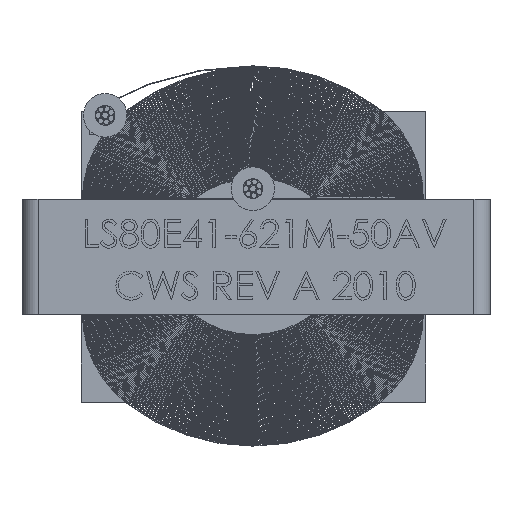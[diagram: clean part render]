
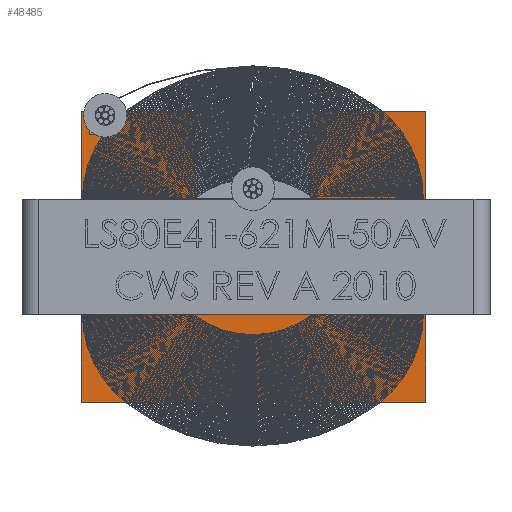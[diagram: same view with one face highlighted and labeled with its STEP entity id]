
A CAD part, front view. The second image highlights one B-rep face of the part: STEP entity #48485.
In plain terms, the highlighted planar face has unit normal (0, -1, 0).
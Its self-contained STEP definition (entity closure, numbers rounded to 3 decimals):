
#2148 = LINE ( 'NONE', #96816, #89303 ) ;
#3680 = ORIENTED_EDGE ( 'NONE', *, *, #57659, .T. ) ;
#4108 = CARTESIAN_POINT ( 'NONE',  ( 29.161, -26.1, 25. ) ) ;
#5273 = DIRECTION ( 'NONE',  ( 1., 0., 0. ) ) ;
#5997 = EDGE_CURVE ( 'NONE', #97333, #90454, #32881, .T. ) ;
#6001 = VECTOR ( 'NONE', #32353, 1000. ) ;
#8084 = CARTESIAN_POINT ( 'NONE',  ( 0., -26.1, 21. ) ) ;
#9072 = CARTESIAN_POINT ( 'NONE',  ( -23.585, -26.1, 0. ) ) ;
#10046 = VECTOR ( 'NONE', #99777, 1000. ) ;
#10840 = CARTESIAN_POINT ( 'NONE',  ( -10.452, -26.1, 9.906 ) ) ;
#11473 = EDGE_CURVE ( 'NONE', #44303, #26735, #2148, .T. ) ;
#11479 = DIRECTION ( 'NONE',  ( 0., 1., 0. ) ) ;
#14145 = VECTOR ( 'NONE', #38448, 1000. ) ;
#15264 = DIRECTION ( 'NONE',  ( -0.008, 0., 1. ) ) ;
#15420 = EDGE_CURVE ( 'NONE', #20447, #55482, #29263, .T. ) ;
#16714 = ORIENTED_EDGE ( 'NONE', *, *, #5997, .F. ) ;
#20447 = VERTEX_POINT ( 'NONE', #83394 ) ;
#21175 = LINE ( 'NONE', #68984, #55295 ) ;
#21523 = CARTESIAN_POINT ( 'NONE',  ( -10.452, -26.1, 9.906 ) ) ;
#23005 = LINE ( 'NONE', #29712, #26260 ) ;
#24794 = CARTESIAN_POINT ( 'NONE',  ( 29.171, -26.1, 25. ) ) ;
#25031 = LINE ( 'NONE', #56442, #51311 ) ;
#25541 = DIRECTION ( 'NONE',  ( -1., 0., 0. ) ) ;
#26081 = ORIENTED_EDGE ( 'NONE', *, *, #11473, .F. ) ;
#26260 = VECTOR ( 'NONE', #38962, 1000. ) ;
#26735 = VERTEX_POINT ( 'NONE', #61000 ) ;
#28778 = DIRECTION ( 'NONE',  ( -1., 0., 0. ) ) ;
#29009 = ORIENTED_EDGE ( 'NONE', *, *, #42363, .T. ) ;
#29263 = LINE ( 'NONE', #21523, #10046 ) ;
#29397 = DIRECTION ( 'NONE',  ( -1., 0., 0. ) ) ;
#29712 = CARTESIAN_POINT ( 'NONE',  ( -10.452, -26.1, -9.906 ) ) ;
#31744 = CARTESIAN_POINT ( 'NONE',  ( 9.36, -26.1, -9.906 ) ) ;
#32353 = DIRECTION ( 'NONE',  ( -1., 0., 0. ) ) ;
#32881 = LINE ( 'NONE', #79183, #92661 ) ;
#35697 = EDGE_LOOP ( 'NONE', ( #98481, #49539, #66185, #29009, #95821, #61609, #26081, #82256, #16714, #62130, #3680, #36967, #85479 ) ) ;
#36156 = DIRECTION ( 'NONE',  ( -1., 0., 0. ) ) ;
#36967 = ORIENTED_EDGE ( 'NONE', *, *, #77776, .T. ) ;
#37192 = VERTEX_POINT ( 'NONE', #57522 ) ;
#38041 = DIRECTION ( 'NONE',  ( 0., 0., -1. ) ) ;
#38163 = CARTESIAN_POINT ( 'NONE',  ( -28.585, -26.1, 25. ) ) ;
#38448 = DIRECTION ( 'NONE',  ( 0., 0., -1. ) ) ;
#38962 = DIRECTION ( 'NONE',  ( -1., 0., 0. ) ) ;
#39439 = DIRECTION ( 'NONE',  ( 0., 0., 1. ) ) ;
#39979 = LINE ( 'NONE', #31744, #14145 ) ;
#42006 = VERTEX_POINT ( 'NONE', #64735 ) ;
#42363 = EDGE_CURVE ( 'NONE', #42006, #48398, #79575, .T. ) ;
#44303 = VERTEX_POINT ( 'NONE', #92285 ) ;
#45137 = LINE ( 'NONE', #93983, #99056 ) ;
#47323 = LINE ( 'NONE', #78645, #6001 ) ;
#48398 = VERTEX_POINT ( 'NONE', #87629 ) ;
#48485 = ADVANCED_FACE ( 'NONE', ( #58302 ), #75740, .F. ) ;
#49539 = ORIENTED_EDGE ( 'NONE', *, *, #58726, .T. ) ;
#50035 = EDGE_CURVE ( 'NONE', #97333, #89485, #21175, .T. ) ;
#50079 = VERTEX_POINT ( 'NONE', #92687 ) ;
#50605 = CARTESIAN_POINT ( 'NONE',  ( 29.161, -26.1, 77.2 ) ) ;
#51097 = LINE ( 'NONE', #75742, #83977 ) ;
#51311 = VECTOR ( 'NONE', #15264, 1000. ) ;
#53665 = VERTEX_POINT ( 'NONE', #78803 ) ;
#55295 = VECTOR ( 'NONE', #29397, 1000. ) ;
#55482 = VERTEX_POINT ( 'NONE', #10840 ) ;
#56055 = DIRECTION ( 'NONE',  ( 0., 0., -1. ) ) ;
#56442 = CARTESIAN_POINT ( 'NONE',  ( -10.367, -26.1, -0.088 ) ) ;
#57522 = CARTESIAN_POINT ( 'NONE',  ( -23.585, -26.1, 25. ) ) ;
#57659 = EDGE_CURVE ( 'NONE', #89485, #53665, #39979, .T. ) ;
#58302 = FACE_OUTER_BOUND ( 'NONE', #35697, .T. ) ;
#58726 = EDGE_CURVE ( 'NONE', #50079, #37192, #47323, .T. ) ;
#61000 = CARTESIAN_POINT ( 'NONE',  ( -30.085, -26.1, 25. ) ) ;
#61609 = ORIENTED_EDGE ( 'NONE', *, *, #85350, .T. ) ;
#62130 = ORIENTED_EDGE ( 'NONE', *, *, #50035, .T. ) ;
#64735 = CARTESIAN_POINT ( 'NONE',  ( -23.585, -26.1, 21. ) ) ;
#65143 = VERTEX_POINT ( 'NONE', #38163 ) ;
#66185 = ORIENTED_EDGE ( 'NONE', *, *, #76057, .T. ) ;
#68984 = CARTESIAN_POINT ( 'NONE',  ( 29.161, -26.1, 25. ) ) ;
#70441 = EDGE_CURVE ( 'NONE', #44303, #90454, #51097, .T. ) ;
#72120 = DIRECTION ( 'NONE',  ( 0., 0., 1. ) ) ;
#73159 = VECTOR ( 'NONE', #38041, 1000. ) ;
#73413 = VECTOR ( 'NONE', #25541, 1000. ) ;
#74845 = VECTOR ( 'NONE', #28778, 1000. ) ;
#75740 = PLANE ( 'NONE',  #100145 ) ;
#75742 = CARTESIAN_POINT ( 'NONE',  ( 29.161, -26.1, -25. ) ) ;
#76057 = EDGE_CURVE ( 'NONE', #37192, #42006, #79555, .T. ) ;
#77776 = EDGE_CURVE ( 'NONE', #53665, #20447, #23005, .T. ) ;
#78645 = CARTESIAN_POINT ( 'NONE',  ( 29.161, -26.1, 25. ) ) ;
#78803 = CARTESIAN_POINT ( 'NONE',  ( 9.36, -26.1, -9.906 ) ) ;
#79183 = CARTESIAN_POINT ( 'NONE',  ( 29.171, -26.1, 77.2 ) ) ;
#79555 = LINE ( 'NONE', #9072, #73159 ) ;
#79575 = LINE ( 'NONE', #8084, #73413 ) ;
#80564 = EDGE_CURVE ( 'NONE', #48398, #65143, #45137, .T. ) ;
#82256 = ORIENTED_EDGE ( 'NONE', *, *, #70441, .T. ) ;
#83394 = CARTESIAN_POINT ( 'NONE',  ( -10.452, -26.1, -9.906 ) ) ;
#83977 = VECTOR ( 'NONE', #5273, 1000. ) ;
#85350 = EDGE_CURVE ( 'NONE', #65143, #26735, #91082, .T. ) ;
#85479 = ORIENTED_EDGE ( 'NONE', *, *, #15420, .T. ) ;
#87629 = CARTESIAN_POINT ( 'NONE',  ( -28.585, -26.1, 21. ) ) ;
#87652 = CARTESIAN_POINT ( 'NONE',  ( 9.36, -26.1, 25. ) ) ;
#89303 = VECTOR ( 'NONE', #72120, 1000. ) ;
#89485 = VERTEX_POINT ( 'NONE', #87652 ) ;
#90454 = VERTEX_POINT ( 'NONE', #96675 ) ;
#90898 = EDGE_CURVE ( 'NONE', #55482, #50079, #25031, .T. ) ;
#91082 = LINE ( 'NONE', #4108, #74845 ) ;
#92285 = CARTESIAN_POINT ( 'NONE',  ( -30.085, -26.1, -25. ) ) ;
#92661 = VECTOR ( 'NONE', #56055, 1000. ) ;
#92687 = CARTESIAN_POINT ( 'NONE',  ( -10.58, -26.1, 25. ) ) ;
#93983 = CARTESIAN_POINT ( 'NONE',  ( -28.585, -26.1, 0. ) ) ;
#95821 = ORIENTED_EDGE ( 'NONE', *, *, #80564, .T. ) ;
#96675 = CARTESIAN_POINT ( 'NONE',  ( 29.171, -26.1, -25. ) ) ;
#96816 = CARTESIAN_POINT ( 'NONE',  ( -30.085, -26.1, -25. ) ) ;
#97333 = VERTEX_POINT ( 'NONE', #24794 ) ;
#98481 = ORIENTED_EDGE ( 'NONE', *, *, #90898, .T. ) ;
#99056 = VECTOR ( 'NONE', #39439, 1000. ) ;
#99777 = DIRECTION ( 'NONE',  ( 0., 0., 1. ) ) ;
#100145 = AXIS2_PLACEMENT_3D ( 'NONE', #50605, #11479, #36156 ) ;
